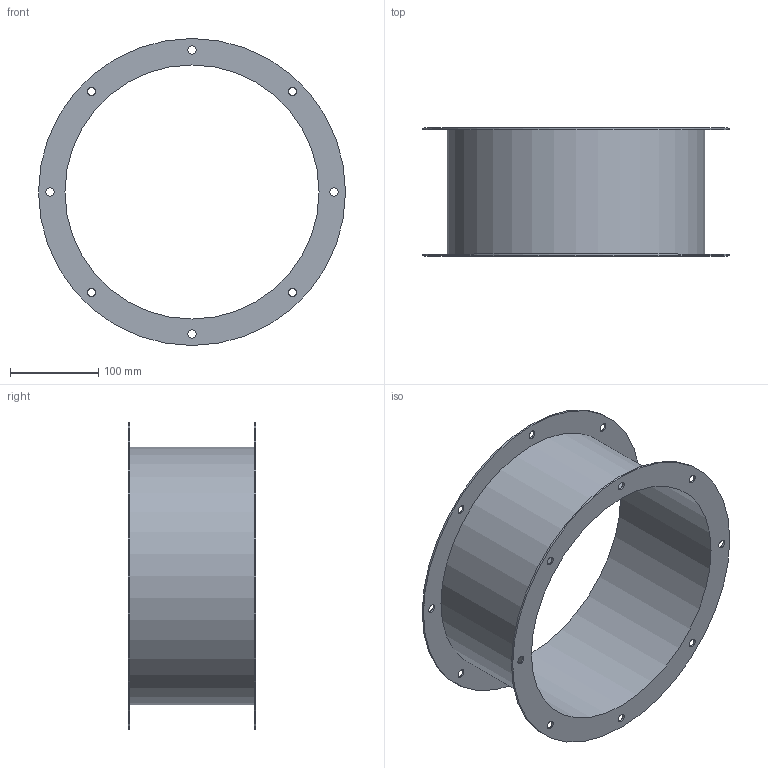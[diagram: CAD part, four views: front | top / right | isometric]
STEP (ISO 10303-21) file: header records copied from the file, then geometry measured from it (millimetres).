
FILE_DESCRIPTION(/* description */ (''),/* implementation_level */ '2;1');
FILE_NAME(/* name */ 'Z:\Output\STS_280_EX-02502-001.stp',/* time_stamp */ '2020-02-14T13:34:49+01:00',/* author */ ('engineering1'),/* organization */ (''),/* preprocessor_version */ 'ST-DEVELOPER v17.2',/* originating_system */ 'Autodesk Inventor 2019',/* authorisation */ '');
FILE_SCHEMA (('AUTOMOTIVE_DESIGN { 1 0 10303 214 3 1 1 }'));
Length unit declared in the file: millimetre
Products named in the file (1): STS-1
Bounding box: 348 x 145 x 348 mm (x, y, z)
Volume: 374534.4 mm3; surface area: 379837.4 mm2
Topology: 1 solids, 1 shells, 24 faces, 68 edges, 48 vertices
Faces by surface type: cylinder 20, plane 4
Full cylindrical faces by diameter (mm): 9.5 x16, 288 x1, 292 x1, 348 x2
Entity records: 933 total; most frequent: DIRECTION 166, CARTESIAN_POINT 141, ORIENTED_EDGE 136, AXIS2_PLACEMENT_3D 73, EDGE_CURVE 68, EDGE_LOOP 60, CIRCLE 48, VERTEX_POINT 48
